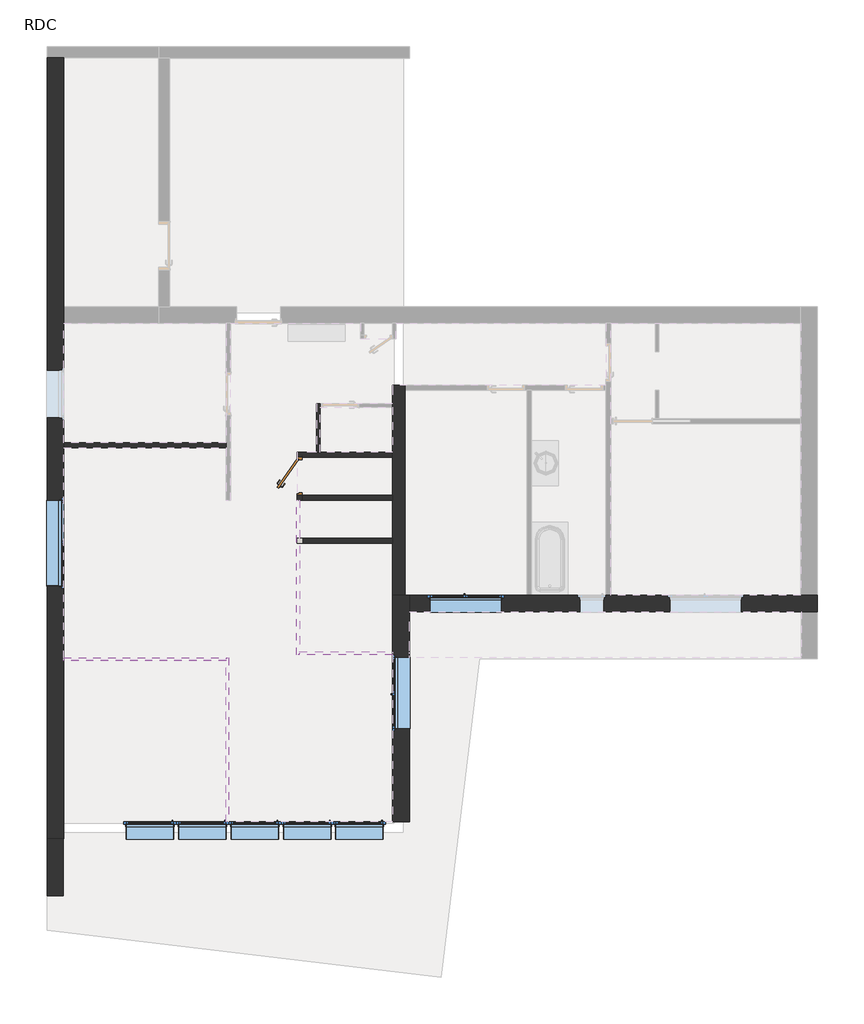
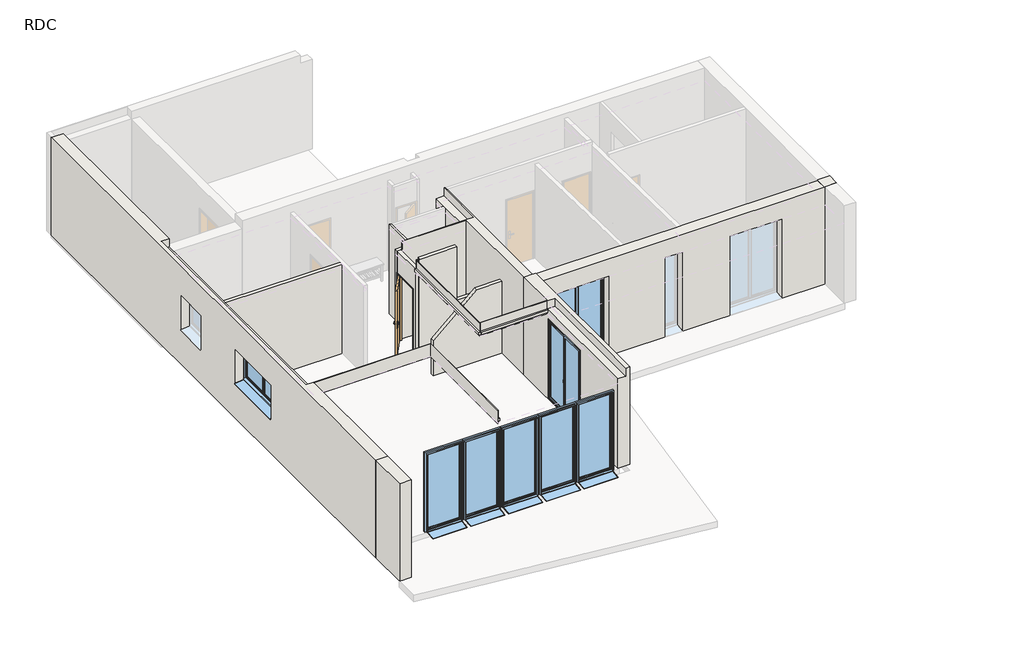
# One storey, part 1 of 2: 15 walls, 8 windows, 1 door.
"""IFC4 building model written with IfcOpenShell, lengths in millimetres."""

from ifc_helpers import new_model, si_unit, frame, origin, origin_with_axes, place, context, project, spatial, polyline, outline, extrude, faceted_brep, transform, mapped, element, save
from components import int_simple_pp_0_73m_x_2_04m_0155da5d, window_1_00m_x_2_40m_46732dcd, window_1_50m_x_2_40m_e69f112c, window_1_80m_x_1_00m_00121215

model = new_model("IFC4")

# Units and contexts
model_context = context("Model", 3, world=origin())
ifc_project = project(units=[si_unit("LENGTHUNIT", "METRE", prefix="MILLI")], contexts=[model_context])

# Site, building, storey
site = spatial("IfcSite", under=ifc_project)
building = spatial("IfcBuilding", under=site)
storey = spatial("IfcBuildingStorey", under=building, Name="RDC", Elevation=0.0)

# Door
placement = place(None, origin())
int_simple_pp_0_73m_x_2_04m_shape = int_simple_pp_0_73m_x_2_04m_0155da5d(model_context)
element("IfcDoor", 1, ObjectType="Int. Simple : PP (0.73m x 2.04m)", at=placement, inside=storey, context=model_context, shape_type="MappedRepresentation", body=[
    mapped(int_simple_pp_0_73m_x_2_04m_shape, transform((-2669.1256089, -1110.1038978, 0.0), x_axis=(0.0, 1.0, 0.0), y_axis=(-1.0, 0.0, 0.0), z_axis=(0.0, 0.0, 1.0))),
])

# Walls
element("IfcWall", 2, ObjectType="Ext. Bardage Métal + Isolant + Béton + Finition", at=placement, inside=storey, context=model_context, shape_type="Brep", body=[
    faceted_brep([(-7956.697342, 7624.9574199, 0.0), (-7956.697342, -8735.0425801, 0.0), (-7956.697342, -8735.0425801, 3000.0), (-7956.697342, 7624.9574199, 3000.0), (-7956.697342, 79.9267611, 2100.0), (-7956.697342, 79.9267611, 1056.6218565), (-7956.697342, 1079.9267611, 1056.6218565), (-7956.697342, 1079.9267611, 2100.0), (-7956.697342, -3445.1038978, 2100.0), (-7956.697342, -3445.1038978, 1056.6218565), (-7956.697342, -1645.1038978, 1056.6218565), (-7956.697342, -1645.1038978, 2100.0), (-7606.697342, -8735.0425801, 0.0), (-7606.697342, -8385.0425801, 0.0), (-7606.697342, -545.0425801, 0.0), (-7606.697342, -445.0425801, 0.0), (-7606.697342, 2054.9574199, 0.0), (-7606.697342, 2404.9574199, 0.0), (-7606.697342, 7624.9574199, 0.0), (-7606.697342, 7624.9574199, 3000.0), (-7606.697342, 2284.9574199, 3000.0), (-7606.697342, 2284.9574199, 2750.0), (-7606.697342, 2054.9574199, 2750.0), (-7606.697342, -445.0425801, 2750.0), (-7606.697342, -545.0425801, 2750.0), (-7606.697342, -4992.0425801, 2750.0), (-7606.697342, -4992.0425801, 3000.0), (-7606.697342, -5005.0425801, 3000.0), (-7606.697342, -8385.0425801, 3000.0), (-7606.697342, -8735.0425801, 3000.0), (-7606.697342, 1129.9267611, 1100.0), (-7606.697342, 29.9267611, 1100.0), (-7606.697342, 29.9267611, 2150.0), (-7606.697342, 1129.9267611, 2150.0), (-7606.697342, -1595.1038978, 1100.0), (-7606.697342, -3495.1038978, 1100.0), (-7606.697342, -3495.1038978, 2150.0), (-7606.697342, -1595.1038978, 2150.0), (-7616.697342, -8735.0425801, 0.0), (-7616.697342, -8735.0425801, 3000.0), (-7836.697342, -4992.0425801, 3000.0), (-7836.697342, 2284.9574199, 3000.0), (-7836.697342, 7624.9574199, 3000.0), (-7836.697342, 2284.9574199, 2750.0), (-7836.697342, -4992.0425801, 2750.0), (-7686.697342, 79.9267611, 1100.0), (-7686.697342, 79.9267611, 1085.0), (-7706.697342, 79.9267611, 2100.0), (-7706.697342, 79.9267611, 1100.0), (-7686.697342, 1079.9267611, 1085.0), (-7686.697342, 1079.9267611, 1100.0), (-7706.697342, 1079.9267611, 1100.0), (-7706.697342, 1079.9267611, 2100.0), (-7706.697342, 69.9267611, 1100.0), (-7656.697342, 69.9267611, 1100.0), (-7656.697342, 29.9267611, 1100.0), (-7656.697342, 1129.9267611, 1100.0), (-7656.697342, 1089.9267611, 1100.0), (-7706.697342, 1089.9267611, 1100.0), (-7656.697342, 29.9267611, 2150.0), (-7656.697342, 69.9267611, 2110.0), (-7656.697342, 1089.9267611, 2110.0), (-7656.697342, 1129.9267611, 2150.0), (-7706.697342, 69.9267611, 2110.0), (-7706.697342, 1089.9267611, 2110.0), (-7686.697342, -3445.1038978, 1100.0), (-7686.697342, -3445.1038978, 1085.0), (-7706.697342, -3445.1038978, 2100.0), (-7706.697342, -3445.1038978, 1100.0), (-7686.697342, -1645.1038978, 1085.0), (-7686.697342, -1645.1038978, 1100.0), (-7706.697342, -1645.1038978, 1100.0), (-7706.697342, -1645.1038978, 2100.0), (-7706.697342, -3455.1038978, 1100.0), (-7656.697342, -3455.1038978, 1100.0), (-7656.697342, -3495.1038978, 1100.0), (-7656.697342, -1595.1038978, 1100.0), (-7656.697342, -1635.1038978, 1100.0), (-7706.697342, -1635.1038978, 1100.0), (-7656.697342, -3495.1038978, 2150.0), (-7656.697342, -3455.1038978, 2110.0), (-7656.697342, -1635.1038978, 2110.0), (-7656.697342, -1595.1038978, 2150.0), (-7706.697342, -3455.1038978, 2110.0), (-7706.697342, -1635.1038978, 2110.0)], [[[0, 1, 2, 3], [4, 5, 6, 7], [8, 9, 10, 11]], [[12, 13, 14, 15, 16, 17, 18, 19, 20, 21, 22, 23, 24, 25, 26, 27, 28, 29], [30, 31, 32, 33], [34, 35, 36, 37]], [[1, 0, 18, 17, 16, 15, 14, 13, 12, 38]], [[3, 2, 39, 29, 28, 27, 26, 40, 41, 20, 19, 42]], [[43, 44, 25, 24, 23, 22, 21]], [[44, 43, 41, 40]], [[44, 40, 26, 25]], [[41, 43, 21, 20]], [[0, 3, 42, 19, 18]], [[2, 1, 38, 12, 29, 39]], [[45, 46, 5, 4, 47, 48]], [[49, 50, 51, 52, 7, 6]], [[5, 46, 49, 6]], [[46, 45, 50, 49]], [[47, 4, 7, 52]], [[45, 48, 53, 54, 55, 31, 30, 56, 57, 58, 51, 50]], [[31, 55, 59, 32]], [[55, 54, 60, 61, 57, 56, 62, 59]], [[54, 53, 63, 60]], [[48, 47, 52, 51, 58, 64, 63, 53]], [[32, 59, 62, 33]], [[61, 60, 63, 64]], [[56, 30, 33, 62]], [[58, 57, 61, 64]], [[65, 66, 9, 8, 67, 68]], [[69, 70, 71, 72, 11, 10]], [[9, 66, 69, 10]], [[66, 65, 70, 69]], [[67, 8, 11, 72]], [[65, 68, 73, 74, 75, 35, 34, 76, 77, 78, 71, 70]], [[35, 75, 79, 36]], [[75, 74, 80, 81, 77, 76, 82, 79]], [[74, 73, 83, 80]], [[68, 67, 72, 71, 78, 84, 83, 73]], [[36, 79, 82, 37]], [[81, 80, 83, 84]], [[76, 34, 37, 82]], [[78, 77, 81, 84]]]),
])
element("IfcWall", 3, ObjectType="Ext. Bardage Bois + Isolant + Béton + Finition", at=placement, inside=storey, context=model_context, shape_type="Brep", body=[
    faceted_brep([(-366.697342, -8385.0425801, 0.0), (-366.697342, -3985.0425801, 0.0), (-366.697342, -3635.0425801, 0.0), (-366.697342, -3635.0425801, 2975.3587736), (-366.697342, -3635.0425801, 3000.0), (-366.697342, -8385.0425801, 3000.0), (-366.697342, -4935.0425801, 2435.0), (-366.697342, -4935.0425801, 6.6218565), (-366.697342, -6435.0425801, 6.6218565), (-366.697342, -6435.0425801, 2435.0), (-716.697342, -3635.0425801, 0.0), (-716.697342, -8385.0425801, 0.0), (-716.697342, -8385.0425801, 2750.0), (-716.697342, -4831.0425801, 2750.0), (-716.697342, -4831.0425801, 3000.0), (-716.697342, -4818.0425801, 3000.0), (-716.697342, -3635.0425801, 3000.0), (-716.697342, -6485.0425801, 35.0), (-716.697342, -4885.0425801, 35.0), (-716.697342, -4885.0425801, 2485.0), (-716.697342, -6485.0425801, 2485.0), (-456.697342, -3635.0425801, 0.0), (-456.697342, -3635.0425801, 3000.0), (-486.697342, -4831.0425801, 3000.0), (-486.697342, -8385.0425801, 3000.0), (-486.697342, -8385.0425801, 2750.0), (-636.697342, -4935.0425801, 35.0), (-616.697342, -4935.0425801, 2435.0), (-616.697342, -4935.0425801, 35.0), (-636.697342, -6435.0425801, 35.0), (-616.697342, -6435.0425801, 35.0), (-616.697342, -6435.0425801, 2435.0), (-616.697342, -4925.0425801, 35.0), (-666.697342, -4925.0425801, 35.0), (-666.697342, -4885.0425801, 35.0), (-666.697342, -6485.0425801, 35.0), (-666.697342, -6445.0425801, 35.0), (-616.697342, -6445.0425801, 35.0), (-666.697342, -4885.0425801, 2485.0), (-666.697342, -4925.0425801, 2445.0), (-666.697342, -6445.0425801, 2445.0), (-666.697342, -6485.0425801, 2485.0), (-616.697342, -4925.0425801, 2445.0), (-616.697342, -6445.0425801, 2445.0), (-486.697342, -4831.0425801, 2750.0)], [[[0, 1, 2, 3, 4, 5], [6, 7, 8, 9]], [[10, 11, 12, 13, 14, 15, 16], [17, 18, 19, 20]], [[2, 1, 0, 11, 10, 21]], [[5, 4, 22, 16, 15, 14, 23, 24]], [[0, 5, 24, 25, 12, 11]], [[4, 3, 2, 21, 10, 16, 22]], [[26, 7, 6, 27, 28]], [[8, 29, 30, 31, 9]], [[7, 26, 29, 8]], [[27, 6, 9, 31]], [[26, 28, 32, 33, 34, 18, 17, 35, 36, 37, 30, 29]], [[18, 34, 38, 19]], [[34, 33, 39, 40, 36, 35, 41, 38]], [[33, 32, 42, 39]], [[28, 27, 31, 30, 37, 43, 42, 32]], [[19, 38, 41, 20]], [[40, 39, 42, 43]], [[35, 17, 20, 41]], [[37, 36, 40, 43]], [[25, 44, 13, 12]], [[23, 44, 25, 24]], [[44, 23, 14, 13]]]),
])
element("IfcWall", 4, ObjectType="Ext. Bardage Métal + Isolant + Béton + Finition", at=placement, inside=storey, context=model_context, shape_type="Brep", body=[
    faceted_brep([(-366.697342, -3985.0425801, 0.0), (7843.302658, -3985.0425801, 0.0), (8183.302658, -3985.0425801, 0.0), (8183.302658, -3985.0425801, 3000.0), (7843.302658, -3985.0425801, 3000.0), (7833.302658, -3985.0425801, 3000.0), (7833.302658, -3985.0425801, 2982.3587736), (-366.697342, -3985.0425801, 2982.3587736), (1563.302658, -3985.0425801, 2435.0), (1563.302658, -3985.0425801, 6.6218565), (63.302658, -3985.0425801, 6.6218565), (63.302658, -3985.0425801, 2435.0), (6593.802658, -3985.0425801, 2435.0), (6593.802658, -3985.0425801, 6.6218565), (5093.802658, -3985.0425801, 6.6218565), (5093.802658, -3985.0425801, 2435.0), (3704.302658, -3985.0425801, 2435.0), (3704.302658, -3985.0425801, 6.6218565), (3204.302658, -3985.0425801, 6.6218565), (3204.302658, -3985.0425801, 2435.0), (-366.697342, -3635.0425801, 0.0), (-366.697342, -3635.0425801, 2975.3587736), (2094.302658, -3635.0425801, 2975.3587736), (2194.302658, -3635.0425801, 2975.3587736), (3754.302658, -3635.0425801, 2975.3587736), (3854.302658, -3635.0425801, 2975.3587736), (7833.302658, -3635.0425801, 2975.3587736), (7833.302658, -3635.0425801, 3000.0), (8183.302658, -3635.0425801, 3000.0), (8183.302658, -3635.0425801, 0.0), (7833.302658, -3635.0425801, 0.0), (3854.302658, -3635.0425801, 0.0), (3754.302658, -3635.0425801, 0.0), (2194.302658, -3635.0425801, 0.0), (2094.302658, -3635.0425801, 0.0), (13.302658, -3635.0425801, 35.0), (1613.302658, -3635.0425801, 35.0), (1613.302658, -3635.0425801, 2485.0), (13.302658, -3635.0425801, 2485.0), (5043.802658, -3635.0425801, 35.0), (6643.802658, -3635.0425801, 35.0), (6643.802658, -3635.0425801, 2485.0), (5043.802658, -3635.0425801, 2485.0), (3154.302658, -3635.0425801, 35.0), (3754.302658, -3635.0425801, 35.0), (3754.302658, -3635.0425801, 2485.0), (3154.302658, -3635.0425801, 2485.0), (1563.302658, -3715.0425801, 35.0), (1563.302658, -3735.0425801, 2435.0), (1563.302658, -3735.0425801, 35.0), (63.302658, -3715.0425801, 35.0), (63.302658, -3735.0425801, 35.0), (63.302658, -3735.0425801, 2435.0), (1573.302658, -3735.0425801, 35.0), (1573.302658, -3685.0425801, 35.0), (1613.302658, -3685.0425801, 35.0), (13.302658, -3685.0425801, 35.0), (53.302658, -3685.0425801, 35.0), (53.302658, -3735.0425801, 35.0), (1613.302658, -3685.0425801, 2485.0), (1573.302658, -3685.0425801, 2445.0), (53.302658, -3685.0425801, 2445.0), (13.302658, -3685.0425801, 2485.0), (1573.302658, -3735.0425801, 2445.0), (53.302658, -3735.0425801, 2445.0), (6593.802658, -3715.0425801, 35.0), (6593.802658, -3735.0425801, 2435.0), (6593.802658, -3735.0425801, 35.0), (5093.802658, -3715.0425801, 35.0), (5093.802658, -3735.0425801, 35.0), (5093.802658, -3735.0425801, 2435.0), (6603.802658, -3735.0425801, 35.0), (6603.802658, -3685.0425801, 35.0), (6643.802658, -3685.0425801, 35.0), (5043.802658, -3685.0425801, 35.0), (5083.802658, -3685.0425801, 35.0), (5083.802658, -3735.0425801, 35.0), (6643.802658, -3685.0425801, 2485.0), (6603.802658, -3685.0425801, 2445.0), (5083.802658, -3685.0425801, 2445.0), (5043.802658, -3685.0425801, 2485.0), (6603.802658, -3735.0425801, 2445.0), (5083.802658, -3735.0425801, 2445.0), (3704.302658, -3715.0425801, 35.0), (3704.302658, -3735.0425801, 2435.0), (3704.302658, -3735.0425801, 35.0), (3204.302658, -3715.0425801, 35.0), (3204.302658, -3735.0425801, 35.0), (3204.302658, -3735.0425801, 2435.0), (3714.302658, -3735.0425801, 35.0), (3714.302658, -3685.0425801, 35.0), (3754.302658, -3685.0425801, 35.0), (3154.302658, -3685.0425801, 35.0), (3194.302658, -3685.0425801, 35.0), (3194.302658, -3735.0425801, 35.0), (3754.302658, -3685.0425801, 2485.0), (3714.302658, -3685.0425801, 2445.0), (3194.302658, -3685.0425801, 2445.0), (3154.302658, -3685.0425801, 2485.0), (3714.302658, -3735.0425801, 2445.0), (3194.302658, -3735.0425801, 2445.0)], [[[0, 1, 2, 3, 4, 5, 6, 7], [8, 9, 10, 11], [12, 13, 14, 15], [16, 17, 18, 19]], [[20, 21, 22, 23, 24, 25, 26, 27, 28, 29, 30, 31, 32, 33, 34], [35, 36, 37, 38], [39, 40, 41, 42], [43, 44, 45, 46]], [[2, 1, 0, 20, 34, 33, 32, 31, 30, 29]], [[0, 7, 21, 20]], [[3, 2, 29, 28]], [[47, 9, 8, 48, 49]], [[10, 50, 51, 52, 11]], [[47, 50, 10, 9]], [[8, 11, 52, 48]], [[50, 47, 49, 53, 54, 55, 36, 35, 56, 57, 58, 51]], [[36, 55, 59, 37]], [[55, 54, 60, 61, 57, 56, 62, 59]], [[54, 53, 63, 60]], [[53, 49, 48, 52, 51, 58, 64, 63]], [[37, 59, 62, 38]], [[61, 60, 63, 64]], [[62, 56, 35, 38]], [[57, 61, 64, 58]], [[65, 13, 12, 66, 67]], [[14, 68, 69, 70, 15]], [[65, 68, 14, 13]], [[12, 15, 70, 66]], [[68, 65, 67, 71, 72, 73, 40, 39, 74, 75, 76, 69]], [[40, 73, 77, 41]], [[73, 72, 78, 79, 75, 74, 80, 77]], [[72, 71, 81, 78]], [[71, 67, 66, 70, 69, 76, 82, 81]], [[41, 77, 80, 42]], [[79, 78, 81, 82]], [[80, 74, 39, 42]], [[75, 79, 82, 76]], [[83, 17, 16, 84, 85]], [[18, 86, 87, 88, 19]], [[83, 86, 18, 17]], [[16, 19, 88, 84]], [[86, 83, 85, 89, 90, 91, 44, 43, 92, 93, 94, 87]], [[44, 91, 95, 45]], [[91, 90, 96, 97, 93, 92, 98, 95]], [[90, 89, 99, 96]], [[89, 85, 84, 88, 87, 94, 100, 99]], [[45, 95, 98, 46]], [[97, 96, 99, 100]], [[98, 92, 43, 46]], [[93, 97, 100, 94]], [[5, 4, 3, 28, 27]], [[5, 27, 26, 6]], [[7, 6, 26, 25, 24, 23, 22, 21]]]),
])
element("IfcWall", 5, ObjectType="Int. Plâtre 100 mm", at=placement, inside=storey, context=model_context, shape_type="SweptSolid", body=[
    extrude(outline(polyline([(-4211.697342, -545.0425801), (-7606.697342, -545.0425801), (-7606.697342, -445.0425801), (-4211.697342, -445.0425801), (-4211.697342, -545.0425801)])), origin_with_axes(), (0.0, 0.0, 1.0), 2750.0),
])
element("IfcWall", 6, ObjectType="Int. Plâtre 100 mm", at=placement, inside=storey, context=model_context, shape_type="Brep", body=[
    faceted_brep([(-716.697342, -645.1038978, 0.0), (-2241.697342, -645.1038978, 0.0), (-2313.697342, -645.1038978, 0.0), (-2719.1256089, -645.1038978, 0.0), (-2719.1256089, -645.1038978, 2750.0), (-2313.697342, -645.1038978, 2750.0), (-2241.697342, -645.1038978, 2750.0), (-716.697342, -645.1038978, 2750.0), (-2719.1256089, -745.1038978, 0.0), (-716.697342, -745.1038978, 0.0), (-716.697342, -745.1038978, 3000.0), (-2577.5004576, -745.1038978, 3000.0), (-2577.5004576, -745.1038978, 2750.0), (-2619.1256089, -745.1038978, 2750.0), (-2719.1256089, -745.1038978, 2750.0), (-2719.1256089, -745.1038978, 2075.0), (-716.697342, -732.1038978, 3000.0), (-2577.5004576, -732.1038978, 3000.0), (-716.697342, -732.1038978, 2750.0), (-2577.5004576, -732.1038978, 2750.0)], [[[0, 1, 2, 3, 4, 5, 6, 7]], [[8, 9, 10, 11, 12, 13, 14, 15]], [[3, 2, 1, 0, 9, 8]], [[11, 10, 16, 17]], [[3, 8, 15, 14, 4]], [[10, 9, 0, 7, 18, 16]], [[12, 19, 18, 7, 6, 5, 4, 14, 13]], [[19, 17, 16, 18]], [[17, 19, 12, 11]]]),
])
element("IfcWall", 7, ObjectType="Int. Plâtre 100 mm", at=placement, inside=storey, context=model_context, shape_type="Brep", body=[
    faceted_brep([(-2719.1256089, -1545.1038978, 0.0), (-2719.1256089, -1645.1038978, 0.0), (-2719.1256089, -1645.1038978, 2750.0), (-2719.1256089, -745.1038978, 2750.0), (-2719.1256089, -745.1038978, 2075.0), (-2719.1256089, -1545.1038978, 2075.0), (-2619.1256089, -1645.1038978, 3000.0), (-2619.1256089, -1645.1038978, 0.0), (-2619.1256089, -1545.1038978, 0.0), (-2619.1256089, -1545.1038978, 2075.0), (-2619.1256089, -745.1038978, 2075.0), (-2619.1256089, -745.1038978, 2750.0), (-2619.1256089, -1632.1038978, 2750.0), (-2619.1256089, -1632.1038978, 3000.0), (-2682.3224934, -1632.1038978, 3000.0), (-2682.3224934, -1645.1038978, 3000.0), (-2669.3224934, -1645.1038978, 3000.0), (-2682.3224934, -1645.1038978, 2750.0), (-2682.3224934, -1632.1038978, 2750.0)], [[[0, 1, 2, 3, 4, 5]], [[6, 7, 8, 9, 10, 11, 12, 13]], [[7, 1, 0, 8]], [[6, 13, 14, 15, 16]], [[10, 4, 3, 11]], [[17, 18, 12, 11, 3, 2]], [[1, 7, 6, 16, 15, 17, 2]], [[18, 14, 13, 12]], [[14, 18, 17, 15]], [[9, 5, 4, 10]], [[5, 9, 8, 0]]]),
])
element("IfcWall", 8, ObjectType="Int. Plâtre 100 mm", at=placement, inside=storey, context=model_context, shape_type="Brep", body=[
    faceted_brep([(-2619.1256089, -1645.1038978, 0.0), (-716.697342, -1645.1038978, 0.0), (-716.697342, -1645.1038978, 1360.0), (-1515.8753062, -1645.1038978, 1360.0), (-1515.8753062, -1645.1038978, 3000.0), (-2619.1256089, -1645.1038978, 3000.0), (-716.697342, -1545.1038978, 0.0), (-2619.1256089, -1545.1038978, 0.0), (-2619.1256089, -1545.1038978, 2075.0), (-2619.1256089, -1545.1038978, 2750.0), (-2577.5004576, -1545.1038978, 2750.0), (-2577.5004576, -1545.1038978, 3000.0), (-1515.8753062, -1545.1038978, 3000.0), (-1515.8753062, -1545.1038978, 1360.0), (-716.697342, -1545.1038978, 1360.0), (-2577.5004576, -1632.1038978, 3000.0), (-2619.1256089, -1632.1038978, 3000.0), (-2619.1256089, -1632.1038978, 2750.0), (-2577.5004576, -1632.1038978, 2750.0)], [[[0, 1, 2, 3, 4, 5]], [[6, 7, 8, 9, 10, 11, 12, 13, 14]], [[2, 1, 6, 14]], [[1, 0, 7, 6]], [[5, 4, 12, 11, 15, 16]], [[3, 2, 14, 13]], [[4, 3, 13, 12]], [[7, 0, 5, 16, 17, 9, 8]], [[17, 18, 10, 9]], [[18, 15, 11, 10]], [[15, 18, 17, 16]]]),
])
element("IfcWall", 9, ObjectType="Int. Plâtre 70 mm", at=placement, inside=storey, context=model_context, shape_type="Brep", body=[
    faceted_brep([(-2241.697342, -645.1038978, 0.0), (-2241.697342, 299.8961022, 0.0), (-2241.697342, 371.8961022, 0.0), (-2241.697342, 371.8961022, 2750.0), (-2241.697342, 299.8961022, 2750.0), (-2241.697342, -645.1038978, 2750.0), (-2313.697342, -645.1038978, 0.0), (-2313.697342, -645.1038978, 2750.0), (-2313.697342, 371.8961022, 2750.0), (-2313.697342, 371.8961022, 0.0)], [[[0, 1, 2, 3, 4, 5]], [[6, 7, 8, 9]], [[2, 1, 0, 6, 9]], [[0, 5, 7, 6]], [[3, 2, 9, 8]], [[5, 4, 3, 8, 7]]]),
])
element("IfcWall", 10, ObjectType="Int. Béton + Finition", at=placement, inside=storey, context=model_context, shape_type="Brep", body=[
    faceted_brep([(-716.697342, 757.8961022, 0.0), (-716.697342, 371.8961022, 0.0), (-716.697342, 299.8961022, 0.0), (-716.697342, -645.1038978, 0.0), (-716.697342, -745.1038978, 0.0), (-716.697342, -1545.1038978, 0.0), (-716.697342, -1645.1038978, 0.0), (-716.697342, -2445.1038978, 0.0), (-716.697342, -2545.1038978, 0.0), (-716.697342, -3635.0425801, 0.0), (-716.697342, -3635.0425801, 3000.0), (-716.697342, -745.1038978, 3000.0), (-716.697342, -732.1038978, 3000.0), (-716.697342, -732.1038978, 2750.0), (-716.697342, -645.1038978, 2750.0), (-716.697342, 299.8961022, 2750.0), (-716.697342, 371.8961022, 2750.0), (-716.697342, 757.8961022, 2750.0), (-456.697342, -3635.0425801, 0.0), (-456.697342, 657.8961022, 0.0), (-456.697342, 757.8961022, 0.0), (-456.697342, 757.8961022, 3000.0), (-456.697342, 657.8961022, 3000.0), (-456.697342, -3635.0425801, 3000.0), (-486.697342, 757.8961022, 3000.0), (-486.697342, -732.1038978, 3000.0), (-486.697342, 757.8961022, 2750.0), (-486.697342, -732.1038978, 2750.0)], [[[0, 1, 2, 3, 4, 5, 6, 7, 8, 9, 10, 11, 12, 13, 14, 15, 16, 17]], [[18, 19, 20, 21, 22, 23]], [[9, 8, 7, 6, 5, 4, 3, 2, 1, 0, 20, 19, 18]], [[23, 22, 21, 24, 25, 12, 11, 10]], [[21, 20, 0, 17, 26, 24]], [[10, 9, 18, 23]], [[13, 27, 26, 17, 16, 15, 14]], [[27, 25, 24, 26]], [[25, 27, 13, 12]]]),
])
element("IfcWall", 11, ObjectType="Int. Plâtre 100 mm", at=placement, inside=storey, context=model_context, shape_type="SweptSolid", body=[
    extrude(outline(polyline([(0.0, -716.697342), (2212.5, -716.697342), (2212.5, -1446.8453117), (1087.5, -2719.1256089), (0.0, -2719.1256089), (0.0, -716.697342)])), frame((0.0, -2545.1038978, 0.0), z_axis=(0.0, 1.0, 0.0), x_axis=(0.0, 0.0, 1.0)), (0.0, 0.0, 1.0), 100.0),
])
element("IfcWall", 12, ObjectType="Ext. Bardage Métal + Isolant + Béton + Bardage Bois", at=placement, inside=storey, context=model_context, shape_type="SweptSolid", body=[
    extrude(outline(polyline([(-7956.697342, -9932.1038978), (-7956.697342, -8735.0425801), (-7616.697342, -8735.0425801), (-7616.697342, -9932.1038978), (-7956.697342, -9932.1038978)])), origin_with_axes(), (0.0, 0.0, 1.0), 3000.0),
])
element("IfcWall", 13, ObjectType="Int. Plâtre 60 mm", at=placement, inside=storey, context=model_context, shape_type="Brep", body=[
    faceted_brep([(-4150.697342, -4944.0425801, 2750.0), (-4150.697342, -8385.0425801, 2750.0), (-4150.697342, -8385.0425801, 2670.0), (-4150.697342, -4944.0425801, 2670.0), (-4211.697342, -8385.0425801, 2600.0), (-4211.697342, -8385.0425801, 3000.0), (-4211.697342, -5005.0425801, 3000.0), (-4211.697342, -4992.0425801, 3000.0), (-4211.697342, -4992.0425801, 2750.0), (-4211.697342, -4944.0425801, 2750.0), (-4211.697342, -4944.0425801, 2670.0), (-4211.697342, -4992.0425801, 2670.0), (-4211.697342, -4992.0425801, 2600.0), (-4211.697342, -5005.0425801, 2600.0), (-4198.697342, -4992.0425801, 2600.0), (-4198.697342, -8385.0425801, 2600.0), (-4198.697342, -8385.0425801, 3000.0), (-4198.697342, -4992.0425801, 3000.0), (-4198.697342, -8385.0425801, 2670.0), (-4198.697342, -8385.0425801, 2750.0), (-4198.697342, -4992.0425801, 2750.0), (-4198.697342, -4992.0425801, 2670.0)], [[[0, 1, 2, 3]], [[4, 5, 6, 7, 8, 9, 10, 11, 12, 13]], [[4, 13, 12, 14, 15]], [[7, 6, 5, 16, 17]], [[5, 4, 15, 18, 2, 1, 19, 16]], [[9, 0, 3, 10]], [[8, 20, 19, 1, 0, 9]], [[20, 17, 16, 19]], [[17, 20, 8, 7]], [[18, 21, 11, 10, 3, 2]], [[21, 14, 12, 11]], [[21, 18, 15, 14]]]),
])
element("IfcWall", 14, ObjectType="Int. Plâtre 60 mm", at=placement, inside=storey, context=model_context, shape_type="SweptSolid", body=[
    extrude(outline(polyline([(-5005.0425801, 2600.0), (-5005.0425801, 3000.0), (-4992.0425801, 3000.0), (-4992.0425801, 2750.0), (-4944.0425801, 2750.0), (-4944.0425801, 2670.0), (-4992.0425801, 2670.0), (-4992.0425801, 2600.0), (-5005.0425801, 2600.0)])), frame((-7606.697342, 0.0, 0.0), z_axis=(1.0, 0.0, 0.0), x_axis=(0.0, 1.0, 0.0)), (0.0, 0.0, 1.0), 3395.0),
])
element("IfcWall", 15, ObjectType="Int. Plâtre 60 mm", at=placement, inside=storey, context=model_context, shape_type="Brep", body=[
    faceted_brep([(-2730.3224934, -4879.0425801, 2750.0), (-2730.3224934, -1645.1038978, 2750.0), (-2730.3224934, -1645.1038978, 2670.0), (-2730.3224934, -4879.0425801, 2670.0), (-2669.3224934, -1645.1038978, 2600.0), (-2669.3224934, -1645.1038978, 3000.0), (-2669.3224934, -4818.0425801, 3000.0), (-2669.3224934, -4831.0425801, 3000.0), (-2669.3224934, -4831.0425801, 2750.0), (-2669.3224934, -4879.0425801, 2750.0), (-2669.3224934, -4879.0425801, 2670.0), (-2669.3224934, -4831.0425801, 2670.0), (-2669.3224934, -4831.0425801, 2600.0), (-2669.3224934, -4818.0425801, 2600.0), (-2682.3224934, -4831.0425801, 2600.0), (-2682.3224934, -1645.1038978, 2600.0), (-2682.3224934, -1645.1038978, 3000.0), (-2682.3224934, -4831.0425801, 3000.0), (-2682.3224934, -1645.1038978, 2670.0), (-2719.1256089, -1645.1038978, 2670.0), (-2719.1256089, -1645.1038978, 2750.0), (-2682.3224934, -1645.1038978, 2750.0), (-2682.3224934, -4831.0425801, 2750.0), (-2682.3224934, -4831.0425801, 2670.0)], [[[0, 1, 2, 3]], [[4, 5, 6, 7, 8, 9, 10, 11, 12, 13]], [[4, 13, 12, 14, 15]], [[7, 6, 5, 16, 17]], [[5, 4, 15, 18, 19, 2, 1, 20, 21, 16]], [[9, 0, 3, 10]], [[8, 22, 21, 20, 1, 0, 9]], [[22, 17, 16, 21]], [[17, 22, 8, 7]], [[18, 23, 11, 10, 3, 2, 19]], [[23, 14, 12, 11]], [[23, 18, 15, 14]]]),
])
element("IfcWall", 16, ObjectType="Int. Plâtre 60 mm", at=placement, inside=storey, context=model_context, shape_type="SweptSolid", body=[
    extrude(outline(polyline([(-4818.0425801, 3000.0), (-4818.0425801, 2600.0), (-4831.0425801, 2600.0), (-4831.0425801, 2670.0), (-4879.0425801, 2670.0), (-4879.0425801, 2750.0), (-4831.0425801, 2750.0), (-4831.0425801, 3000.0), (-4818.0425801, 3000.0)])), frame((-2669.3224934, 0.0, 0.0), z_axis=(1.0, 0.0, 0.0), x_axis=(0.0, 1.0, 0.0)), (0.0, 0.0, 1.0), 1952.6251514),
])

# Windows
window_1_00m_x_2_40m_shape = window_1_00m_x_2_40m_46732dcd(model_context)
element("IfcWindow", 17, ObjectType="PF 1 Vantail - Droite : 1.00m x 2.40m", at=placement, inside=storey, context=model_context, shape_type="MappedRepresentation", body=[
    mapped(window_1_00m_x_2_40m_shape, transform((-5806.697342, -8560.0425801, 0.0), x_axis=(-1.0, 0.0, 0.0), y_axis=(0.0, -1.0, 0.0), z_axis=(0.0, 0.0, 1.0))),
])
element("IfcWindow", 18, ObjectType="PF 1 Vantail - Droite : 1.00m x 2.40m", at=placement, inside=storey, context=model_context, shape_type="MappedRepresentation", body=[
    mapped(window_1_00m_x_2_40m_shape, transform((-4706.697342, -8560.0425801, 0.0), x_axis=(-1.0, 0.0, 0.0), y_axis=(0.0, -1.0, 0.0), z_axis=(0.0, 0.0, 1.0))),
])
element("IfcWindow", 19, ObjectType="PF 1 Vantail - Droite : 1.00m x 2.40m", at=placement, inside=storey, context=model_context, shape_type="MappedRepresentation", body=[
    mapped(window_1_00m_x_2_40m_shape, transform((-3606.697342, -8560.0425801, 0.0), x_axis=(-1.0, 0.0, 0.0), y_axis=(0.0, -1.0, 0.0), z_axis=(0.0, 0.0, 1.0))),
])
element("IfcWindow", 20, ObjectType="PF 1 Vantail - Droite : 1.00m x 2.40m", at=placement, inside=storey, context=model_context, shape_type="MappedRepresentation", body=[
    mapped(window_1_00m_x_2_40m_shape, transform((-2506.697342, -8560.0425801, 0.0), x_axis=(-1.0, 0.0, 0.0), y_axis=(0.0, -1.0, 0.0), z_axis=(0.0, 0.0, 1.0))),
])
element("IfcWindow", 21, ObjectType="PF 1 Vantail - Droite : 1.00m x 2.40m", at=placement, inside=storey, context=model_context, shape_type="MappedRepresentation", body=[
    mapped(window_1_00m_x_2_40m_shape, transform((-1416.697342, -8560.0425801, 0.0), x_axis=(-1.0, 0.0, 0.0), y_axis=(0.0, -1.0, 0.0), z_axis=(0.0, 0.0, 1.0))),
])
window_1_50m_x_2_40m_shape = window_1_50m_x_2_40m_e69f112c(model_context)
element("IfcWindow", 22, ObjectType="PF 2 Vantaux - Droits : 1.50m x 2.40m", at=placement, inside=storey, context=model_context, shape_type="MappedRepresentation", body=[
    mapped(window_1_50m_x_2_40m_shape, transform((813.302658, -3810.0425801, 0.0), x_axis=(-1.0, 0.0, 0.0), y_axis=(0.0, -1.0, 0.0), z_axis=(0.0, 0.0, 1.0))),
])
element("IfcWindow", 23, ObjectType="PF 2 Vantaux - Droits : 1.50m x 2.40m", at=placement, inside=storey, context=model_context, shape_type="MappedRepresentation", body=[
    mapped(window_1_50m_x_2_40m_shape, transform((-541.697342, -5685.0425801, 0.0), x_axis=(0.0, -1.0, 0.0), y_axis=(1.0, 0.0, 0.0), z_axis=(0.0, 0.0, 1.0))),
])
window_1_80m_x_1_00m_shape = window_1_80m_x_1_00m_00121215(model_context)
element("IfcWindow", 24, ObjectType="2 Vantaux - Droits : 1.80m x 1.00m", at=placement, inside=storey, context=model_context, shape_type="MappedRepresentation", body=[
    mapped(window_1_80m_x_1_00m_shape, transform((-7781.697342, -2545.1038978, 300.0), x_axis=(0.0, 1.0, 0.0), y_axis=(-1.0, 0.0, 0.0), z_axis=(0.0, 0.0, 1.0))),
])

save(model, "model.ifc")
